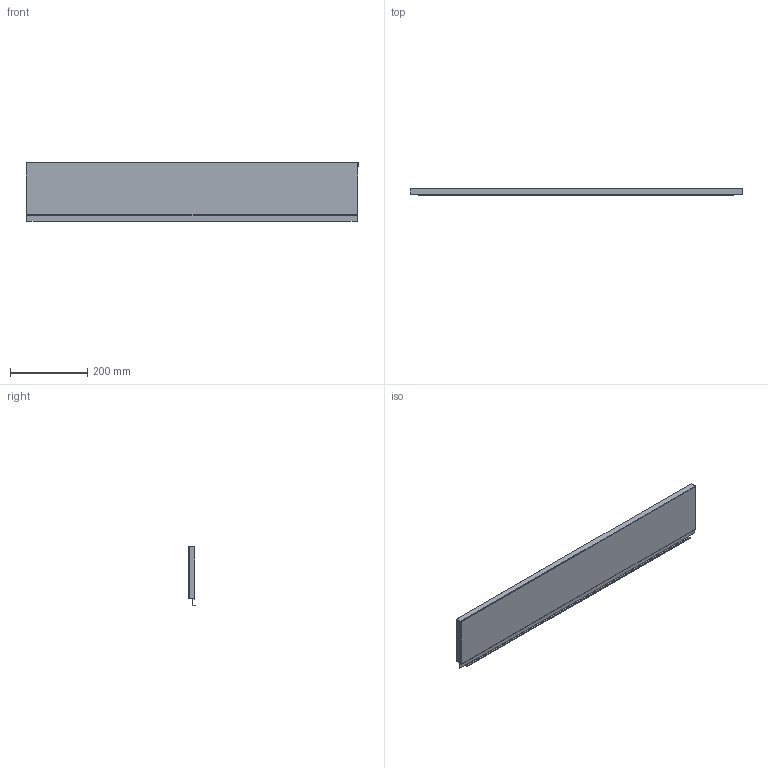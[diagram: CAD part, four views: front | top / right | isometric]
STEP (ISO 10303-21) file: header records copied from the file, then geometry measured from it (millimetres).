
FILE_DESCRIPTION (( 'STEP AP214' ), '1' );
FILE_NAME ('_STRW_H154_KAB_950.step', '2010-08-24T14:40:40', ( 'grass' ), ( '' ), 'SwSTEP 2.0', 'SolidWorks 2009', '' );
FILE_SCHEMA (( 'AUTOMOTIVE_DESIGN' ));
Length unit declared in the file: millimetre
Products named in the file (1): _STRW_H154_KAB_950
Bounding box: 860 x 17 x 154.14 mm (x, y, z)
Volume: 128586.7 mm3; surface area: 323210.9 mm2
Topology: 1 solids, 1 shells, 76 faces, 214 edges, 140 vertices
Faces by surface type: plane 54, cylinder 22
Entity records: 2472 total; most frequent: CARTESIAN_POINT 431, ORIENTED_EDGE 428, DIRECTION 412, EDGE_CURVE 214, LINE 170, VECTOR 170, VERTEX_POINT 140, AXIS2_PLACEMENT_3D 121
